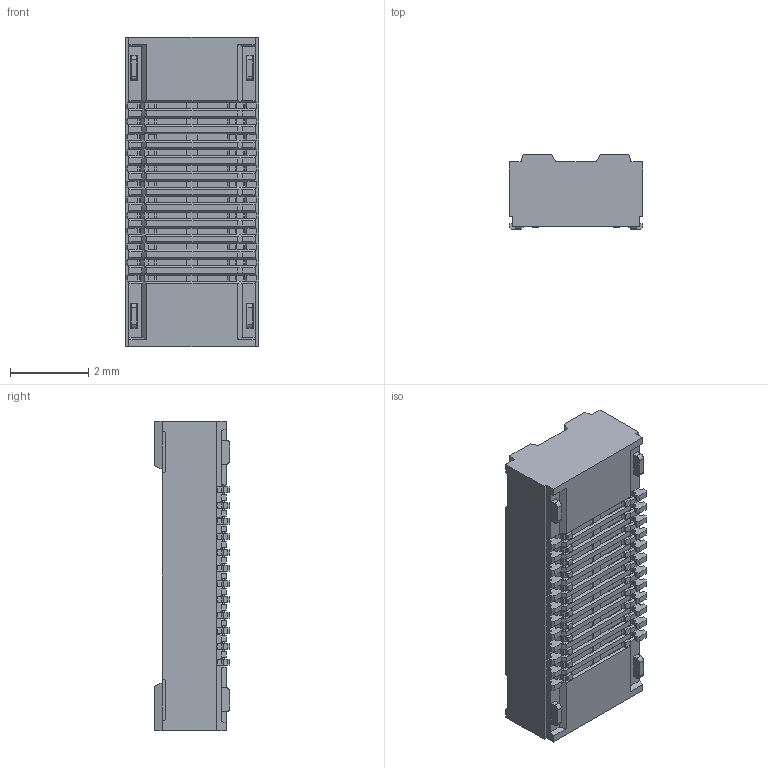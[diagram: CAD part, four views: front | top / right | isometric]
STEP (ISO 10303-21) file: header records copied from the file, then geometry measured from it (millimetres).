
FILE_DESCRIPTION((''),'2;1');
FILE_NAME('S-50009-024XX-001','2017-06-06T',('k49820'),(''),'PRO/ENGINEER BY PARAMETRIC TECHNOLOGY CORPORATION, 2009360','PRO/ENGINEER BY PARAMETRIC TECHNOLOGY CORPORATION, 2009360','');
FILE_SCHEMA(('CONFIG_CONTROL_DESIGN'));
Length unit declared in the file: millimetre
Products named in the file (1): S-50009-024XX-001
Bounding box: 3.4 x 1.92 x 7.9 mm (x, y, z)
Volume: 34.4 mm3; surface area: 137.3 mm2
Topology: 1 solids, 1 shells, 1857 faces, 5066 edges, 3310 vertices
Faces by surface type: plane 1603, cylinder 242, cone 4, torus 4, bspline 4
Entity records: 58092 total; most frequent: CARTESIAN_POINT 11201, ORIENTED_EDGE 10124, DIRECTION 8914, EDGE_CURVE 5062, VECTOR 4564, LINE 4564, VERTEX_POINT 3310, AXIS2_PLACEMENT_3D 2175
